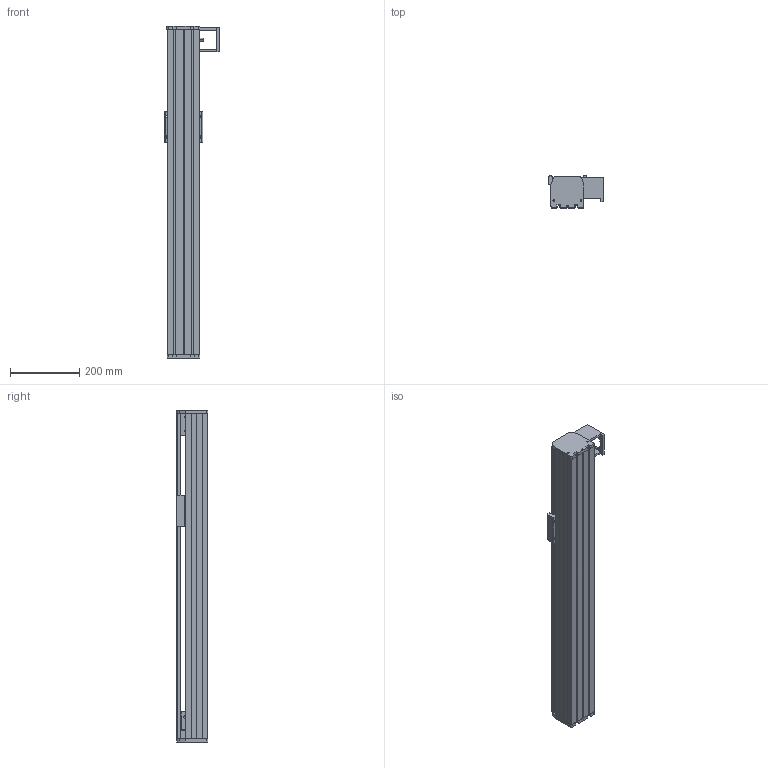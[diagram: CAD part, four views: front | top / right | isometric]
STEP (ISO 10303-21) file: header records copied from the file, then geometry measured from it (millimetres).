
FILE_DESCRIPTION (( 'STEP AP214' ), '1' );
FILE_NAME ('CF90-D-C-FWR.STEP', '2016-07-18T01:25:15', ( 'Sky123.Org' ), ( 'Sky123.Org' ), 'SwSTEP 2.0', 'SolidWorks 2015', '' );
FILE_SCHEMA (( 'AUTOMOTIVE_DESIGN' ));
Length unit declared in the file: millimetre
Products named in the file (15): HGR20絳寢; CF95臏倰第; CF90-D-C-FWR; 5M-Z15-25-囀噤12; 薊粣ん杶; 5M-Z15-25-囀噤10植雄謫; 翋雄粣; 植雄粣; 翋雄釱; deep groove ball bearings gb_Rolling bearings 16001 GB 276-94; 95賑輸; 95裔啣-1; 95耜啣; 植雄釱; CF-HGW20CA
Assembly tree (16 placements, depth 2):
  CF90-D-C-FWR
    CF95臏倰第
    HGR20絳寢
    CF-HGW20CA
    植雄釱
    95耜啣  x2
    95裔啣-1
    95賑輸
    deep groove ball bearings gb_Rolling bearings 16001 GB 276-94  x2
    翋雄釱
    植雄粣
    翋雄粣
    5M-Z15-25-囀噤10植雄謫
    薊粣ん杶
    5M-Z15-25-囀噤12
Bounding box: 158.32 x 91.48 x 960 mm (x, y, z)
Volume: 3148499.3 mm3; surface area: 996232.5 mm2
Topology: 16 solids, 16 shells, 1007 faces, 3214 edges, 2142 vertices
Faces by surface type: plane 480, cylinder 361, torus 106, sphere 56, cone 4
Entity records: 32841 total; most frequent: CARTESIAN_POINT 7133, ORIENTED_EDGE 5192, DIRECTION 5055, EDGE_CURVE 2596, AXIS2_PLACEMENT_3D 1799, VERTEX_POINT 1725, LINE 1457, VECTOR 1457
